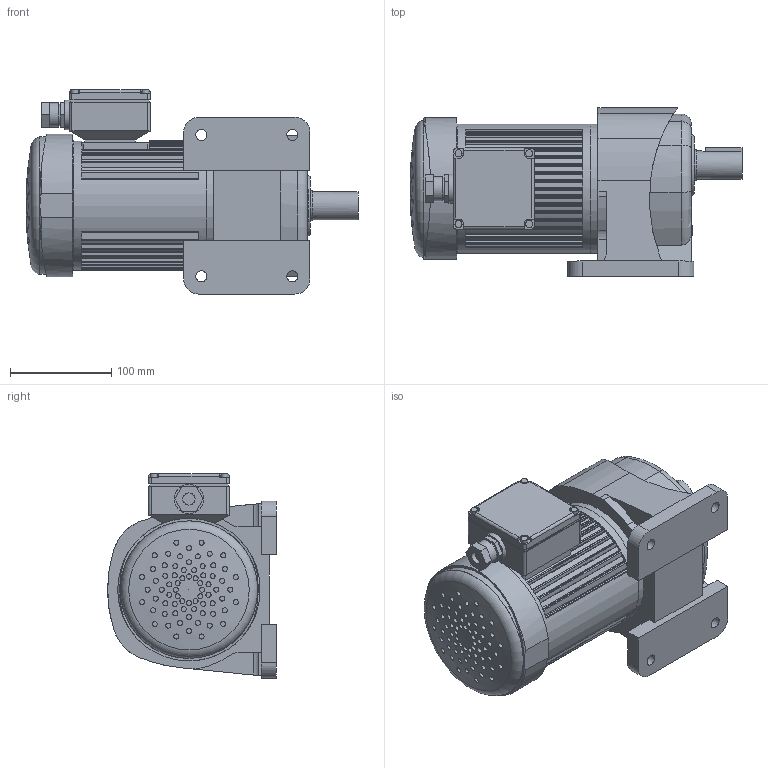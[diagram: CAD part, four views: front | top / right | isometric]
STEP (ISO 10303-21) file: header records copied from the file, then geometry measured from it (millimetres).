
FILE_DESCRIPTION( ( 'STEP AP203' ), ' ' );
FILE_NAME( 'p:/temp/worker_3180/2824_2672/app_47_02016063013460512923967192d056f_000000_00_00_000000/format_0/G3LW-28-30-T040E.stp', '2016-06-30T11:46:11', ( '' ), ( '' ), ' ', 'PARTsolutions', ' ' );
FILE_SCHEMA( ( 'CONFIG_CONTROL_DESIGN' ) );
Length unit declared in the file: millimetre
Products named in the file (7): G3LW-28-30-T040E; _GL28; _SP028; HI_T040; HI_040MW; _E-BOX(aluminum)(T040); _KEY1-28
Assembly tree (6 placements, depth 2):
  G3LW-28-30-T040E
    _GL28
    _SP028
    HI_T040
    HI_040MW
    _E-BOX(aluminum)(T040)
    _KEY1-28
Bounding box: 328.5 x 167 x 202 mm (x, y, z)
Volume: 4772637.7 mm3; surface area: 362458.4 mm2
Topology: 6 solids, 6 shells, 665 faces, 1667 edges, 1126 vertices
Faces by surface type: plane 349, cylinder 303, torus 12, sphere 1
Full cylindrical faces by diameter (mm): 5 x72, 7 x4, 11 x4, 12 x1, 21 x1, 24 x1, 28 x1, 29 x1, 30 x1, 128 x3, 136 x1
Entity records: 24076 total; most frequent: CARTESIAN_POINT 8363, DIRECTION 3347, ORIENTED_EDGE 2976, EDGE_CURVE 1488, AXIS2_PLACEMENT_3D 1295, VERTEX_POINT 1044, EDGE_LOOP 881, FACE_OUTER_BOUND 757
